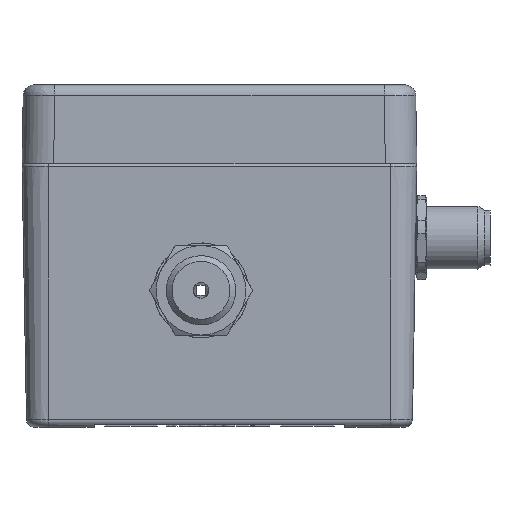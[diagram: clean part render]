
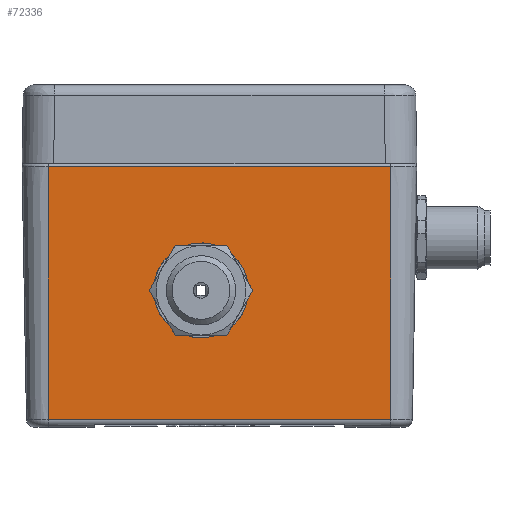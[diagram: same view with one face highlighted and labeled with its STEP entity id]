
A CAD part, front view. The second image highlights one B-rep face of the part: STEP entity #72336.
In plain terms, the highlighted planar face has unit normal (0, -1, -0.018).
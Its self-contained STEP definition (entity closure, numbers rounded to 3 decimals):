
#809=ELLIPSE('',#76853,9.001,9.);
#810=ELLIPSE('',#76854,9.001,9.);
#1078=FACE_BOUND('',#11578,.T.);
#4196=PLANE('',#76852);
#7644=FACE_OUTER_BOUND('',#11577,.T.);
#11577=EDGE_LOOP('',(#59248,#59249,#59250,#59251));
#11578=EDGE_LOOP('',(#59252,#59253));
#19111=LINE('',#115109,#25514);
#19119=LINE('',#115147,#25522);
#20183=LINE('',#123168,#26586);
#20184=LINE('',#123170,#26587);
#25514=VECTOR('',#88595,65.);
#25522=VECTOR('',#88643,48.025);
#26586=VECTOR('',#90625,48.025);
#26587=VECTOR('',#90628,65.);
#31584=VERTEX_POINT('',#115106);
#31585=VERTEX_POINT('',#115108);
#31595=VERTEX_POINT('',#115145);
#32763=VERTEX_POINT('',#123166);
#32764=VERTEX_POINT('',#123171);
#32765=VERTEX_POINT('',#123172);
#40124=EDGE_CURVE('',#31584,#31585,#19111,.T.);
#40145=EDGE_CURVE('',#31595,#31584,#19119,.T.);
#41925=EDGE_CURVE('',#32763,#31585,#20183,.T.);
#41926=EDGE_CURVE('',#32763,#31595,#20184,.T.);
#41927=EDGE_CURVE('',#32764,#32765,#809,.T.);
#41928=EDGE_CURVE('',#32765,#32764,#810,.T.);
#59248=ORIENTED_EDGE('',*,*,#41926,.F.);
#59249=ORIENTED_EDGE('',*,*,#41925,.T.);
#59250=ORIENTED_EDGE('',*,*,#40124,.F.);
#59251=ORIENTED_EDGE('',*,*,#40145,.F.);
#59252=ORIENTED_EDGE('',*,*,#41927,.T.);
#59253=ORIENTED_EDGE('',*,*,#41928,.T.);
#72336=ADVANCED_FACE('',(#7644,#1078),#4196,.T.);
#76852=AXIS2_PLACEMENT_3D('',#123169,#90626,#90627);
#76853=AXIS2_PLACEMENT_3D('',#123173,#90629,#90630);
#76854=AXIS2_PLACEMENT_3D('',#123174,#90631,#90632);
#88595=DIRECTION('',(-1.,0.,0.));
#88643=DIRECTION('',(0.,0.017,-1.));
#90625=DIRECTION('',(0.,0.017,-1.));
#90626=DIRECTION('center_axis',(0.,-1.,
-0.017));
#90627=DIRECTION('ref_axis',(0.,0.017,-1.));
#90628=DIRECTION('',(1.,0.,0.));
#90629=DIRECTION('center_axis',(0.,1.,
0.017));
#90630=DIRECTION('ref_axis',(0.,-0.017,1.));
#90631=DIRECTION('center_axis',(0.,1.,
0.017));
#90632=DIRECTION('ref_axis',(0.,-0.017,1.));
#115106=CARTESIAN_POINT('',(32.5,-39.153,-48.526));
#115108=CARTESIAN_POINT('',(-32.5,-39.153,-48.526));
#115109=CARTESIAN_POINT('',(32.5,-39.153,-48.526));
#115145=CARTESIAN_POINT('',(32.5,-39.991,-0.509));
#115147=CARTESIAN_POINT('',(32.5,-39.991,-0.509));
#123166=CARTESIAN_POINT('',(-32.5,-39.991,-0.509));
#123168=CARTESIAN_POINT('',(-32.5,-39.991,-0.509));
#123169=CARTESIAN_POINT('Origin',(-32.5,-40.,0.));
#123170=CARTESIAN_POINT('',(-32.5,-39.991,-0.509));
#123171=CARTESIAN_POINT('',(-3.5,-39.424,-33.));
#123172=CARTESIAN_POINT('',(-12.5,-39.581,-24.));
#123173=CARTESIAN_POINT('Origin',(-3.5,-39.581,-24.));
#123174=CARTESIAN_POINT('Origin',(-3.5,-39.581,-24.));
